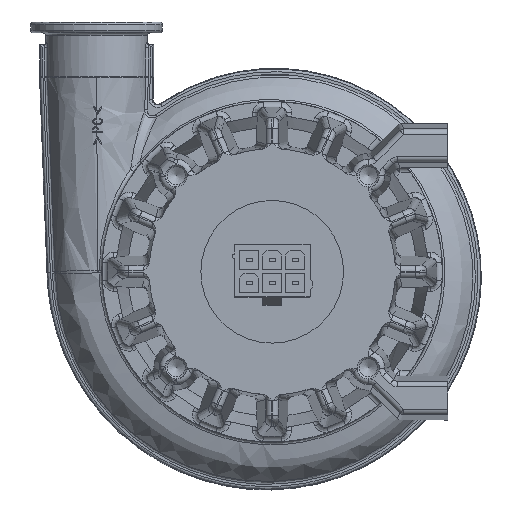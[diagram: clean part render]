
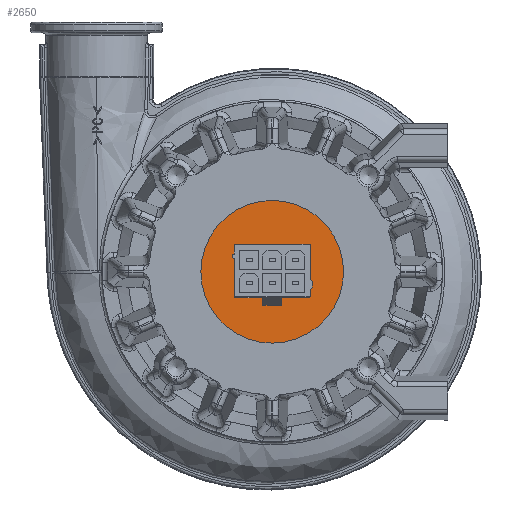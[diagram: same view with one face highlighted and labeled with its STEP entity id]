
A CAD part, front view. The second image highlights one B-rep face of the part: STEP entity #2650.
In plain terms, the highlighted planar face has unit normal (0, -1, 0).
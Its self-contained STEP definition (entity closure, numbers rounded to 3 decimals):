
#990=FACE_BOUND('',#5665,.T.);
#991=FACE_BOUND('',#5666,.T.);
#1627=CIRCLE('',#22270,13.);
#1628=CIRCLE('',#22271,0.4);
#2650=ADVANCED_FACE('',(#990,#991),#3434,.F.);
#3434=PLANE('',#22272);
#5665=EDGE_LOOP('',(#11950));
#5666=EDGE_LOOP('',(#11951,#11952,#11953,#11954,#11955,#11956,#11957,#11958,
#11959,#11960,#11961,#11962,#11963,#11964));
#11950=ORIENTED_EDGE('',*,*,#18250,.T.);
#11951=ORIENTED_EDGE('',*,*,#18238,.F.);
#11952=ORIENTED_EDGE('',*,*,#18249,.F.);
#11953=ORIENTED_EDGE('',*,*,#18247,.F.);
#11954=ORIENTED_EDGE('',*,*,#18245,.F.);
#11955=ORIENTED_EDGE('',*,*,#18244,.F.);
#11956=ORIENTED_EDGE('',*,*,#18251,.F.);
#11957=ORIENTED_EDGE('',*,*,#18252,.F.);
#11958=ORIENTED_EDGE('',*,*,#18253,.F.);
#11959=ORIENTED_EDGE('',*,*,#18254,.F.);
#11960=ORIENTED_EDGE('',*,*,#18255,.T.);
#11961=ORIENTED_EDGE('',*,*,#18256,.F.);
#11962=ORIENTED_EDGE('',*,*,#18257,.F.);
#11963=ORIENTED_EDGE('',*,*,#18258,.F.);
#11964=ORIENTED_EDGE('',*,*,#18259,.T.);
#15492=VERTEX_POINT('',#42329);
#15493=VERTEX_POINT('',#42331);
#15494=VERTEX_POINT('',#42333);
#15497=VERTEX_POINT('',#42341);
#15498=VERTEX_POINT('',#42345);
#15499=VERTEX_POINT('',#42349);
#15500=VERTEX_POINT('',#42355);
#15501=VERTEX_POINT('',#42357);
#15502=VERTEX_POINT('',#42359);
#15503=VERTEX_POINT('',#42361);
#15504=VERTEX_POINT('',#42363);
#15505=VERTEX_POINT('',#42365);
#15506=VERTEX_POINT('',#42367);
#15507=VERTEX_POINT('',#42369);
#15508=VERTEX_POINT('',#42371);
#18238=EDGE_CURVE('',#15493,#15494,#20070,.T.);
#18244=EDGE_CURVE('',#15497,#15492,#20076,.T.);
#18245=EDGE_CURVE('',#15492,#15498,#20077,.T.);
#18247=EDGE_CURVE('',#15498,#15499,#20079,.T.);
#18249=EDGE_CURVE('',#15499,#15493,#20081,.T.);
#18250=EDGE_CURVE('',#15500,#15500,#1627,.T.);
#18251=EDGE_CURVE('',#15501,#15497,#20082,.T.);
#18252=EDGE_CURVE('',#15502,#15501,#1628,.T.);
#18253=EDGE_CURVE('',#15503,#15502,#20083,.T.);
#18254=EDGE_CURVE('',#15504,#15503,#20084,.T.);
#18255=EDGE_CURVE('',#15504,#15505,#20085,.T.);
#18256=EDGE_CURVE('',#15506,#15505,#20086,.T.);
#18257=EDGE_CURVE('',#15507,#15506,#20087,.T.);
#18258=EDGE_CURVE('',#15508,#15507,#20088,.T.);
#18259=EDGE_CURVE('',#15508,#15494,#20089,.T.);
#20070=LINE('',#42332,#21047);
#20076=LINE('',#42342,#21053);
#20077=LINE('',#42344,#21054);
#20079=LINE('',#42348,#21056);
#20081=LINE('',#42352,#21058);
#20082=LINE('',#42356,#21059);
#20083=LINE('',#42360,#21060);
#20084=LINE('',#42362,#21061);
#20085=LINE('',#42364,#21062);
#20086=LINE('',#42366,#21063);
#20087=LINE('',#42368,#21064);
#20088=LINE('',#42370,#21065);
#20089=LINE('',#42372,#21066);
#21047=VECTOR('',#25417,1.);
#21053=VECTOR('',#25423,1.);
#21054=VECTOR('',#25426,1.);
#21056=VECTOR('',#25430,1.);
#21058=VECTOR('',#25434,1.);
#21059=VECTOR('',#25439,1.);
#21060=VECTOR('',#25442,1.);
#21061=VECTOR('',#25443,1.);
#21062=VECTOR('',#25444,1.);
#21063=VECTOR('',#25445,1.);
#21064=VECTOR('',#25446,1.);
#21065=VECTOR('',#25447,1.);
#21066=VECTOR('',#25448,1.);
#22270=AXIS2_PLACEMENT_3D('',#42354,#25437,#25438);
#22271=AXIS2_PLACEMENT_3D('',#42358,#25440,#25441);
#22272=AXIS2_PLACEMENT_3D('',#42373,#25449,#25450);
#25417=DIRECTION('',(1.,0.,0.));
#25423=DIRECTION('',(1.,0.,0.));
#25426=DIRECTION('',(0.,0.,-1.));
#25430=DIRECTION('',(1.,0.,0.));
#25434=DIRECTION('',(0.,0.,1.));
#25437=DIRECTION('',(0.,-1.,0.));
#25438=DIRECTION('',(0.,0.,1.));
#25439=DIRECTION('',(0.,0.,-1.));
#25440=DIRECTION('',(0.,-1.,0.));
#25441=DIRECTION('',(0.,0.,1.));
#25442=DIRECTION('',(0.,0.,-1.));
#25443=DIRECTION('',(-1.,0.,0.));
#25444=DIRECTION('',(0.,0.,-1.));
#25445=DIRECTION('',(-0.707,0.,0.707));
#25446=DIRECTION('',(0.,0.,1.));
#25447=DIRECTION('',(0.707,0.,0.707));
#25448=DIRECTION('',(0.,0.,-1.));
#25449=DIRECTION('',(0.,1.,0.));
#25450=DIRECTION('',(0.,0.,-1.));
#42329=CARTESIAN_POINT('',(76.563,-3.,-44.454));
#42331=CARTESIAN_POINT('',(90.163,-3.,-44.454));
#42332=CARTESIAN_POINT('',(90.263,-3.,-44.454));
#42333=CARTESIAN_POINT('',(90.263,-3.,-44.454));
#42341=CARTESIAN_POINT('',(76.463,-3.,-44.454));
#42342=CARTESIAN_POINT('',(90.263,-3.,-44.454));
#42344=CARTESIAN_POINT('',(76.563,-3.,-35.154));
#42345=CARTESIAN_POINT('',(76.563,-3.,-44.554));
#42348=CARTESIAN_POINT('',(76.563,-3.,-44.554));
#42349=CARTESIAN_POINT('',(90.163,-3.,-44.554));
#42352=CARTESIAN_POINT('',(90.163,-3.,-44.554));
#42354=CARTESIAN_POINT('',(83.363,-3.,-39.854));
#42355=CARTESIAN_POINT('',(83.363,-3.,-26.854));
#42356=CARTESIAN_POINT('',(76.463,-3.,-39.654));
#42357=CARTESIAN_POINT('',(76.463,-3.,-37.454));
#42358=CARTESIAN_POINT('',(76.463,-3.,-37.054));
#42359=CARTESIAN_POINT('',(76.463,-3.,-36.654));
#42360=CARTESIAN_POINT('',(76.463,-3.,-39.654));
#42361=CARTESIAN_POINT('',(76.463,-3.,-34.854));
#42362=CARTESIAN_POINT('',(90.263,-3.,-34.854));
#42363=CARTESIAN_POINT('',(90.263,-3.,-34.854));
#42364=CARTESIAN_POINT('',(90.263,-3.,-39.654));
#42365=CARTESIAN_POINT('',(90.263,-3.,-41.244));
#42366=CARTESIAN_POINT('',(90.263,-3.,-41.244));
#42367=CARTESIAN_POINT('',(90.663,-3.,-41.644));
#42368=CARTESIAN_POINT('',(90.663,-3.,-41.644));
#42369=CARTESIAN_POINT('',(90.663,-3.,-42.644));
#42370=CARTESIAN_POINT('',(90.663,-3.,-42.644));
#42371=CARTESIAN_POINT('',(90.263,-3.,-43.044));
#42372=CARTESIAN_POINT('',(90.263,-3.,-39.654));
#42373=CARTESIAN_POINT('',(70.363,-3.,-39.854));
